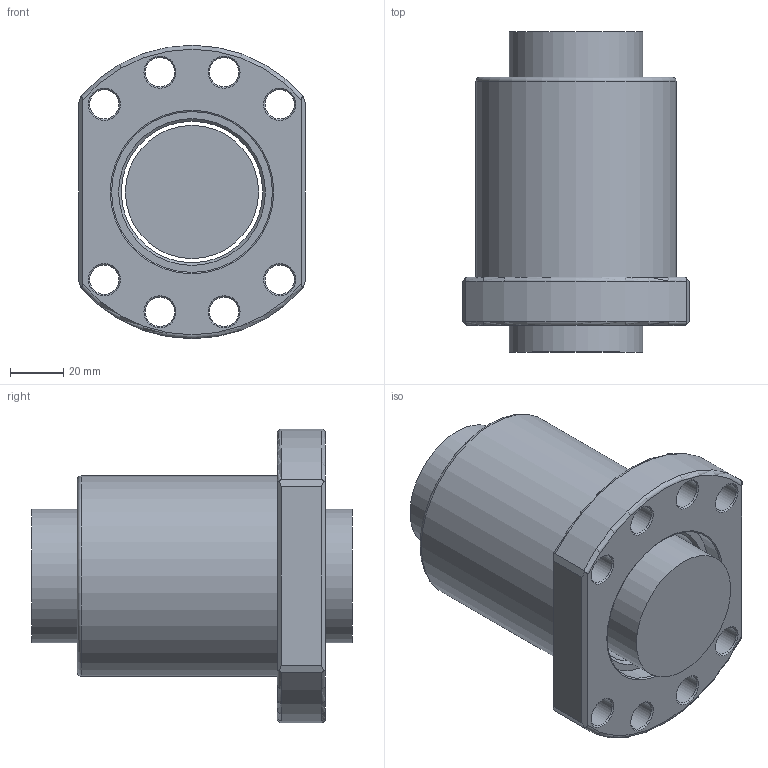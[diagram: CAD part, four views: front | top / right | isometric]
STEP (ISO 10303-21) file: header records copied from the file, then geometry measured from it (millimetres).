
FILE_DESCRIPTION(/* description */ (''),/* implementation_level */ '2;1');
FILE_NAME(/* name */ '5010.prt.step',/* time_stamp */ '2008-12-05T16:32:28+08:00',/* author */ (''),/* organization */ (''),/* preprocessor_version */ 'ST-DEVELOPER v11',/* originating_system */ 'SIEMENS UGS NX 6.0',/* authorisation */ '');
FILE_SCHEMA (('AUTOMOTIVE_DESIGN { 1 0 10303 214 1 1 1 1 }'));
Length unit declared in the file: millimetre
Products named in the file (1): 5010
Bounding box: 85 x 120 x 110 mm (x, y, z)
Volume: 486806.8 mm3; surface area: 76819.1 mm2
Topology: 2 solids, 2 shells, 57 faces, 132 edges, 82 vertices
Faces by surface type: cone 18, plane 17, cylinder 15, torus 7
Full cylindrical faces by diameter (mm): 11 x8, 49.95 x1, 53 x1, 60.3 x2, 75 x1
Entity records: 1694 total; most frequent: CARTESIAN_POINT 472, DIRECTION 250, ORIENTED_EDGE 190, AXIS2_PLACEMENT_3D 113, EDGE_LOOP 112, EDGE_CURVE 95, FACE_BOUND 94, VERTEX_POINT 79
